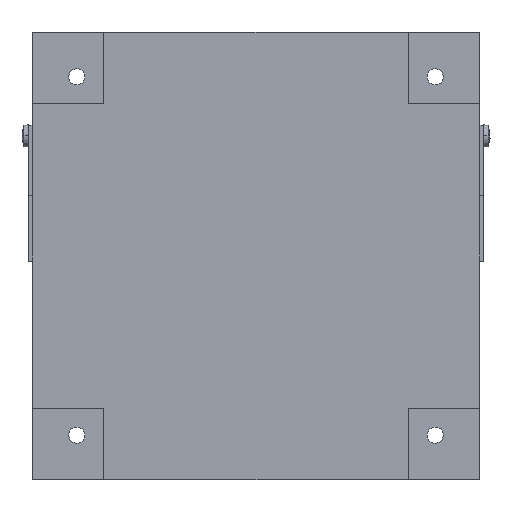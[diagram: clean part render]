
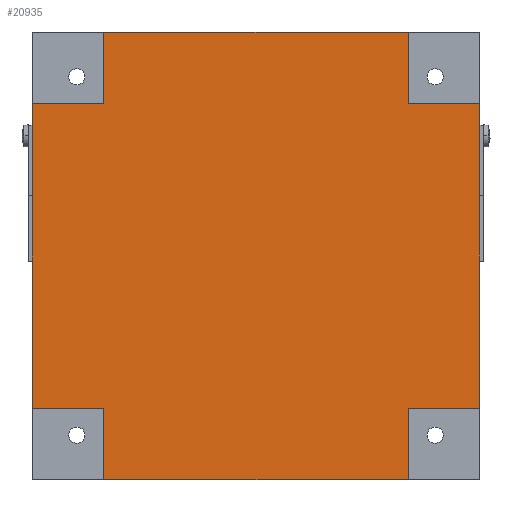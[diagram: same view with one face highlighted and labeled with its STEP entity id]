
A CAD part, front view. The second image highlights one B-rep face of the part: STEP entity #20935.
In plain terms, the highlighted planar face has unit normal (0, -1, 0).
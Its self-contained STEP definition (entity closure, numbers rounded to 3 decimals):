
#10090 = CARTESIAN_POINT ( 'NONE',  ( -62.5, 0.5, 42.5 ) ) ;
#10091 = DIRECTION ( 'NONE',  ( 0., 0., 1. ) ) ;
#10092 = VECTOR ( 'NONE', #10091, 1000. ) ;
#10093 = CARTESIAN_POINT ( 'NONE',  ( -62.5, 0.5, 62.5 ) ) ;
#10094 = LINE ( 'NONE', #10093, #10092 ) ;
#10201 = CARTESIAN_POINT ( 'NONE',  ( 62.5, 0.5, -42.5 ) ) ;
#10202 = DIRECTION ( 'NONE',  ( 0., 0., -1. ) ) ;
#10203 = VECTOR ( 'NONE', #10202, 1000. ) ;
#10204 = CARTESIAN_POINT ( 'NONE',  ( 62.5, 0.5, 62.5 ) ) ;
#10205 = LINE ( 'NONE', #10204, #10203 ) ;
#10206 = CARTESIAN_POINT ( 'NONE',  ( 62.5, 0.5, 42.5 ) ) ;
#10352 = CARTESIAN_POINT ( 'NONE',  ( -62.5, 0.5, -42.5 ) ) ;
#10490 = CARTESIAN_POINT ( 'NONE',  ( 42.5, 0.5, 62.5 ) ) ;
#10491 = DIRECTION ( 'NONE',  ( 1., 0., 0. ) ) ;
#10492 = VECTOR ( 'NONE', #10491, 1000. ) ;
#10493 = CARTESIAN_POINT ( 'NONE',  ( 62.5, 0.5, 62.5 ) ) ;
#10494 = LINE ( 'NONE', #10493, #10492 ) ;
#10495 = CARTESIAN_POINT ( 'NONE',  ( -42.5, 0.5, 62.5 ) ) ;
#10513 = DIRECTION ( 'NONE',  ( -1., 0., 0. ) ) ;
#10514 = VECTOR ( 'NONE', #10513, 1000. ) ;
#10515 = CARTESIAN_POINT ( 'NONE',  ( 42.5, 0.5, 42.5 ) ) ;
#10516 = LINE ( 'NONE', #10515, #10514 ) ;
#10517 = CARTESIAN_POINT ( 'NONE',  ( 42.5, 0.5, 42.5 ) ) ;
#10647 = CARTESIAN_POINT ( 'NONE',  ( -42.5, 0.5, -42.5 ) ) ;
#10648 = DIRECTION ( 'NONE',  ( 1., 0., 0. ) ) ;
#10649 = VECTOR ( 'NONE', #10648, 1000. ) ;
#10650 = CARTESIAN_POINT ( 'NONE',  ( -62.5, 0.5, -42.5 ) ) ;
#10651 = LINE ( 'NONE', #10650, #10649 ) ;
#10705 = DIRECTION ( 'NONE',  ( 1., 0., 0. ) ) ;
#10706 = VECTOR ( 'NONE', #10705, 1000. ) ;
#10707 = CARTESIAN_POINT ( 'NONE',  ( 42.5, 0.5, -42.5 ) ) ;
#10708 = LINE ( 'NONE', #10707, #10706 ) ;
#10796 = DIRECTION ( 'NONE',  ( 0., 0., 1. ) ) ;
#10797 = VECTOR ( 'NONE', #10796, 1000. ) ;
#10798 = CARTESIAN_POINT ( 'NONE',  ( 42.5, 0.5, 62.5 ) ) ;
#10828 = LINE ( 'NONE', #10798, #10797 ) ;
#10829 = DIRECTION ( 'NONE',  ( 0., 0., -1. ) ) ;
#10830 = DIRECTION ( 'NONE',  ( 0., 1., 0. ) ) ;
#10831 = CARTESIAN_POINT ( 'NONE',  ( -3.951, 0.5, 1.945 ) ) ;
#10832 = AXIS2_PLACEMENT_3D ( 'NONE', #10831, #10830, #10829 ) ;
#10833 = PLANE ( 'NONE',  #10832 ) ;
#10834 = FACE_OUTER_BOUND ( 'NONE', #20765, .T. ) ;
#10835 = DIRECTION ( 'NONE',  ( -1., 0., 0. ) ) ;
#10836 = VECTOR ( 'NONE', #10835, 1000. ) ;
#10837 = CARTESIAN_POINT ( 'NONE',  ( -62.5, 0.5, 42.5 ) ) ;
#10838 = LINE ( 'NONE', #10837, #10836 ) ;
#10839 = CARTESIAN_POINT ( 'NONE',  ( -42.5, 0.5, 42.5 ) ) ;
#10840 = DIRECTION ( 'NONE',  ( 0., 0., -1. ) ) ;
#10841 = VECTOR ( 'NONE', #10840, 1000. ) ;
#10842 = CARTESIAN_POINT ( 'NONE',  ( -42.5, 0.5, 62.5 ) ) ;
#10843 = LINE ( 'NONE', #10842, #10841 ) ;
#10844 = CARTESIAN_POINT ( 'NONE',  ( 42.5, 0.5, -42.5 ) ) ;
#10845 = DIRECTION ( 'NONE',  ( 0., 0., 1. ) ) ;
#10846 = VECTOR ( 'NONE', #10845, 1000. ) ;
#10847 = CARTESIAN_POINT ( 'NONE',  ( 42.5, 0.5, -42.5 ) ) ;
#10848 = LINE ( 'NONE', #10847, #10846 ) ;
#10849 = CARTESIAN_POINT ( 'NONE',  ( 42.5, 0.5, -62.5 ) ) ;
#10850 = DIRECTION ( 'NONE',  ( -1., 0., 0. ) ) ;
#10851 = VECTOR ( 'NONE', #10850, 1000. ) ;
#10852 = CARTESIAN_POINT ( 'NONE',  ( 62.5, 0.5, -62.5 ) ) ;
#10853 = LINE ( 'NONE', #10852, #10851 ) ;
#10854 = CARTESIAN_POINT ( 'NONE',  ( -42.5, 0.5, -62.5 ) ) ;
#10855 = DIRECTION ( 'NONE',  ( 0., 0., -1. ) ) ;
#10856 = VECTOR ( 'NONE', #10855, 1000. ) ;
#10857 = CARTESIAN_POINT ( 'NONE',  ( -42.5, 0.5, -42.5 ) ) ;
#10858 = LINE ( 'NONE', #10857, #10856 ) ;
#20379 = VERTEX_POINT ( 'NONE', #10206 ) ;
#20381 = EDGE_CURVE ( 'NONE', #20379, #20382, #10205, .T. ) ;
#20382 = VERTEX_POINT ( 'NONE', #10201 ) ;
#20453 = EDGE_CURVE ( 'NONE', #20666, #20454, #10094, .T. ) ;
#20454 = VERTEX_POINT ( 'NONE', #10090 ) ;
#20666 = VERTEX_POINT ( 'NONE', #10352 ) ;
#20762 = VERTEX_POINT ( 'NONE', #10517 ) ;
#20764 = EDGE_CURVE ( 'NONE', #20379, #20762, #10516, .T. ) ;
#20765 = EDGE_LOOP ( 'NONE', ( #20936, #20937, #20928, #20929, #20932, #20914, #20915, #20918, #20921, #20924, #20927, #20851 ) ) ;
#20772 = VERTEX_POINT ( 'NONE', #10495 ) ;
#20774 = EDGE_CURVE ( 'NONE', #20772, #20775, #10494, .T. ) ;
#20775 = VERTEX_POINT ( 'NONE', #10490 ) ;
#20850 = EDGE_CURVE ( 'NONE', #20926, #20382, #10708, .T. ) ;
#20851 = ORIENTED_EDGE ( 'NONE', *, *, #20381, .F. ) ;
#20914 = ORIENTED_EDGE ( 'NONE', *, *, #20453, .F. ) ;
#20915 = ORIENTED_EDGE ( 'NONE', *, *, #20916, .T. ) ;
#20916 = EDGE_CURVE ( 'NONE', #20666, #20917, #10651, .T. ) ;
#20917 = VERTEX_POINT ( 'NONE', #10647 ) ;
#20918 = ORIENTED_EDGE ( 'NONE', *, *, #20919, .T. ) ;
#20919 = EDGE_CURVE ( 'NONE', #20917, #20920, #10858, .T. ) ;
#20920 = VERTEX_POINT ( 'NONE', #10854 ) ;
#20921 = ORIENTED_EDGE ( 'NONE', *, *, #20922, .F. ) ;
#20922 = EDGE_CURVE ( 'NONE', #20923, #20920, #10853, .T. ) ;
#20923 = VERTEX_POINT ( 'NONE', #10849 ) ;
#20924 = ORIENTED_EDGE ( 'NONE', *, *, #20925, .T. ) ;
#20925 = EDGE_CURVE ( 'NONE', #20923, #20926, #10848, .T. ) ;
#20926 = VERTEX_POINT ( 'NONE', #10844 ) ;
#20927 = ORIENTED_EDGE ( 'NONE', *, *, #20850, .T. ) ;
#20928 = ORIENTED_EDGE ( 'NONE', *, *, #20774, .F. ) ;
#20929 = ORIENTED_EDGE ( 'NONE', *, *, #20930, .T. ) ;
#20930 = EDGE_CURVE ( 'NONE', #20772, #20931, #10843, .T. ) ;
#20931 = VERTEX_POINT ( 'NONE', #10839 ) ;
#20932 = ORIENTED_EDGE ( 'NONE', *, *, #20933, .T. ) ;
#20933 = EDGE_CURVE ( 'NONE', #20931, #20454, #10838, .T. ) ;
#20935 = ADVANCED_FACE ( 'NONE', ( #10834 ), #10833, .F. ) ;
#20936 = ORIENTED_EDGE ( 'NONE', *, *, #20764, .T. ) ;
#20937 = ORIENTED_EDGE ( 'NONE', *, *, #20938, .T. ) ;
#20938 = EDGE_CURVE ( 'NONE', #20762, #20775, #10828, .T. ) ;
